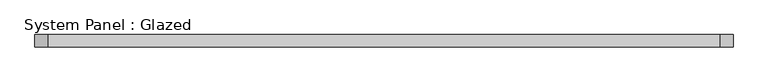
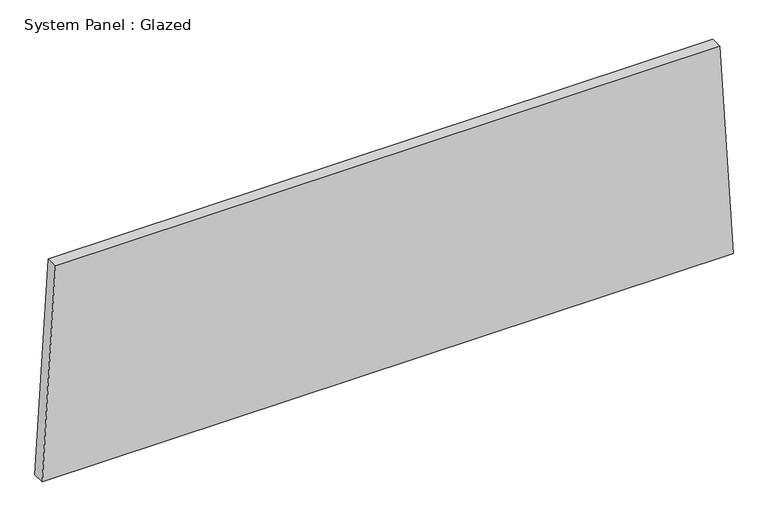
"""IFC4 building model written with IfcOpenShell, lengths in millimetres: plate geometry, System Panel : Glazed."""

from ifc_helpers import new_model, si_unit, frame, origin, place, context, project, spatial, polyline, outline, extrude, source, transform, mapped, element, save


def system_panel_glazed_1352d32b(model_context):
    return source(origin(), model_context, "Body", "SweptSolid", [
        extrude(outline(polyline([(0.0, -706.8812862), (0.0, 706.8812862), (457.7399348, 679.7843422), (457.7399348, -679.7843422), (0.0, -706.8812862)])), frame((0.0, -44.45, 0.0), z_axis=(0.0, 1.0, 0.0), x_axis=(0.0, 0.0, 1.0)), (0.0, 0.0, 1.0), 25.4),
    ])


if __name__ == "__main__":
    model = new_model("IFC4")
    model_context = context("Model", 3, world=origin())
    ifc_project = project(units=[si_unit("LENGTHUNIT", "METRE", prefix="MILLI")], contexts=[model_context])
    site = spatial("IfcSite", under=ifc_project)
    building = spatial("IfcBuilding", under=site)
    placement = place(None, origin())
    system_panel_glazed_shape = system_panel_glazed_1352d32b(model_context)
    element("IfcPlate", 1, ObjectType="System Panel : Glazed", at=placement, inside=building, context=model_context, shape_type="MappedRepresentation", body=[
        mapped(system_panel_glazed_shape, transform((0.0, 0.0, 0.0), x_axis=(1.0, 0.0, 0.0), y_axis=(0.0, 1.0, 0.0), z_axis=(0.0, 0.0, 1.0))),
    ])
    save(model, "model.ifc")
